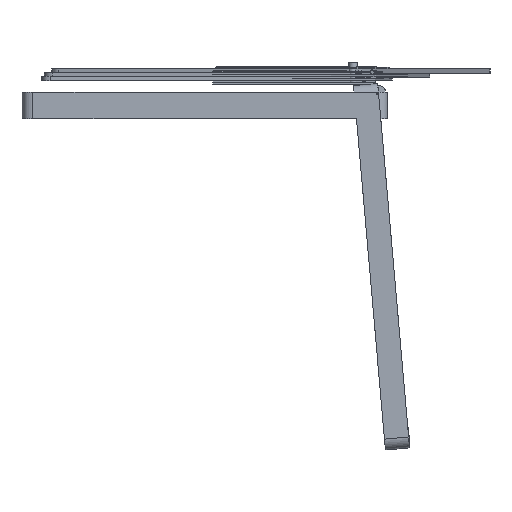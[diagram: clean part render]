
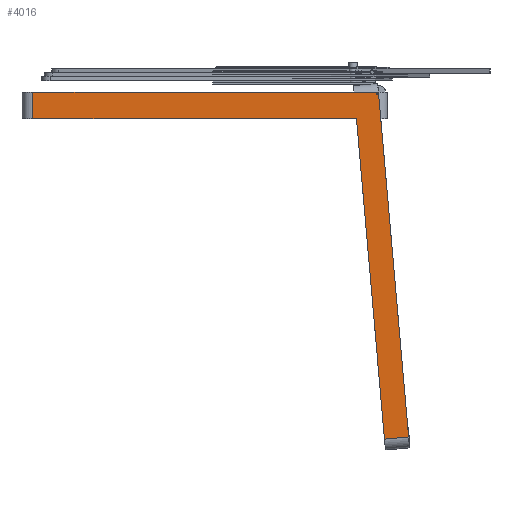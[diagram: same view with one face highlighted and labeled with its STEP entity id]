
A CAD part, left-side view. The second image highlights one B-rep face of the part: STEP entity #4016.
In plain terms, the highlighted planar face has unit normal (-1, 0, 0).
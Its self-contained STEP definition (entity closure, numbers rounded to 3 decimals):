
#778 = PLANE('',#779);
#779 = AXIS2_PLACEMENT_3D('',#780,#781,#782);
#780 = CARTESIAN_POINT('',(-46.,-30.19,2.2));
#781 = DIRECTION('',(0.,0.,1.));
#782 = DIRECTION('',(1.,0.,0.));
#2057 = EDGE_CURVE('',#2058,#2060,#2062,.T.);
#2058 = VERTEX_POINT('',#2059);
#2059 = CARTESIAN_POINT('',(-46.,-28.39,2.2));
#2060 = VERTEX_POINT('',#2061);
#2061 = CARTESIAN_POINT('',(-46.,28.39,2.2));
#2062 = SURFACE_CURVE('',#2063,(#2067,#2074),.PCURVE_S1.);
#2063 = LINE('',#2064,#2065);
#2064 = CARTESIAN_POINT('',(-46.,-30.19,2.2));
#2065 = VECTOR('',#2066,1.);
#2066 = DIRECTION('',(0.,1.,0.));
#2067 = PCURVE('',#778,#2068);
#2068 = DEFINITIONAL_REPRESENTATION('',(#2069),#2073);
#2069 = LINE('',#2070,#2071);
#2070 = CARTESIAN_POINT('',(0.,0.));
#2071 = VECTOR('',#2072,1.);
#2072 = DIRECTION('',(0.,1.));
#2073 = ( GEOMETRIC_REPRESENTATION_CONTEXT(2) 
PARAMETRIC_REPRESENTATION_CONTEXT() REPRESENTATION_CONTEXT('2D SPACE',''
  ) );
#2074 = PCURVE('',#2075,#2080);
#2075 = PLANE('',#2076);
#2076 = AXIS2_PLACEMENT_3D('',#2077,#2078,#2079);
#2077 = CARTESIAN_POINT('',(-46.,-30.19,-2.2));
#2078 = DIRECTION('',(1.,0.,0.));
#2079 = DIRECTION('',(0.,0.,1.));
#2080 = DEFINITIONAL_REPRESENTATION('',(#2081),#2085);
#2081 = LINE('',#2082,#2083);
#2082 = CARTESIAN_POINT('',(4.4,0.));
#2083 = VECTOR('',#2084,1.);
#2084 = DIRECTION('',(0.,-1.));
#2085 = ( GEOMETRIC_REPRESENTATION_CONTEXT(2) 
PARAMETRIC_REPRESENTATION_CONTEXT() REPRESENTATION_CONTEXT('2D SPACE',''
  ) );
#2104 = CYLINDRICAL_SURFACE('',#2105,1.8);
#2105 = AXIS2_PLACEMENT_3D('',#2106,#2107,#2108);
#2106 = CARTESIAN_POINT('',(-44.2,-28.39,-2.2));
#2107 = DIRECTION('',(0.,0.,1.));
#2108 = DIRECTION('',(-1.,-0.,0.));
#2281 = CYLINDRICAL_SURFACE('',#2282,1.8);
#2282 = AXIS2_PLACEMENT_3D('',#2283,#2284,#2285);
#2283 = CARTESIAN_POINT('',(-44.2,28.39,-2.2));
#2284 = DIRECTION('',(0.,0.,1.));
#2285 = DIRECTION('',(-1.,-0.,0.));
#4016 = ADVANCED_FACE('',(#4017),#2075,.F.);
#4017 = FACE_BOUND('',#4018,.F.);
#4018 = EDGE_LOOP('',(#4019,#4020,#4043,#4071,#4099,#4127,#4155,#4183));
#4019 = ORIENTED_EDGE('',*,*,#2057,.F.);
#4020 = ORIENTED_EDGE('',*,*,#4021,.F.);
#4021 = EDGE_CURVE('',#4022,#2058,#4024,.T.);
#4022 = VERTEX_POINT('',#4023);
#4023 = CARTESIAN_POINT('',(-46.,-28.39,1.763));
#4024 = SURFACE_CURVE('',#4025,(#4029,#4036),.PCURVE_S1.);
#4025 = LINE('',#4026,#4027);
#4026 = CARTESIAN_POINT('',(-46.,-28.39,-2.2));
#4027 = VECTOR('',#4028,1.);
#4028 = DIRECTION('',(0.,0.,1.));
#4029 = PCURVE('',#2075,#4030);
#4030 = DEFINITIONAL_REPRESENTATION('',(#4031),#4035);
#4031 = LINE('',#4032,#4033);
#4032 = CARTESIAN_POINT('',(0.,-1.8));
#4033 = VECTOR('',#4034,1.);
#4034 = DIRECTION('',(1.,0.));
#4035 = ( GEOMETRIC_REPRESENTATION_CONTEXT(2) 
PARAMETRIC_REPRESENTATION_CONTEXT() REPRESENTATION_CONTEXT('2D SPACE',''
  ) );
#4036 = PCURVE('',#2104,#4037);
#4037 = DEFINITIONAL_REPRESENTATION('',(#4038),#4042);
#4038 = LINE('',#4039,#4040);
#4039 = CARTESIAN_POINT('',(0.,0.));
#4040 = VECTOR('',#4041,1.);
#4041 = DIRECTION('',(0.,1.));
#4042 = ( GEOMETRIC_REPRESENTATION_CONTEXT(2) 
PARAMETRIC_REPRESENTATION_CONTEXT() REPRESENTATION_CONTEXT('2D SPACE',''
  ) );
#4043 = ORIENTED_EDGE('',*,*,#4044,.F.);
#4044 = EDGE_CURVE('',#4045,#4022,#4047,.T.);
#4045 = VERTEX_POINT('',#4046);
#4046 = CARTESIAN_POINT('',(-46.,-28.705,1.791));
#4047 = SURFACE_CURVE('',#4048,(#4052,#4059),.PCURVE_S1.);
#4048 = LINE('',#4049,#4050);
#4049 = CARTESIAN_POINT('',(-46.,-28.705,1.791));
#4050 = VECTOR('',#4051,1.);
#4051 = DIRECTION('',(0.,0.996,-0.087));
#4052 = PCURVE('',#2075,#4053);
#4053 = DEFINITIONAL_REPRESENTATION('',(#4054),#4058);
#4054 = LINE('',#4055,#4056);
#4055 = CARTESIAN_POINT('',(3.991,-1.485));
#4056 = VECTOR('',#4057,1.);
#4057 = DIRECTION('',(-0.087,-0.996));
#4058 = ( GEOMETRIC_REPRESENTATION_CONTEXT(2) 
PARAMETRIC_REPRESENTATION_CONTEXT() REPRESENTATION_CONTEXT('2D SPACE',''
  ) );
#4059 = PCURVE('',#4060,#4065);
#4060 = CYLINDRICAL_SURFACE('',#4061,1.8);
#4061 = AXIS2_PLACEMENT_3D('',#4062,#4063,#4064);
#4062 = CARTESIAN_POINT('',(-44.2,-28.705,1.791));
#4063 = DIRECTION('',(0.,0.996,-0.087));
#4064 = DIRECTION('',(-1.,0.,0.));
#4065 = DEFINITIONAL_REPRESENTATION('',(#4066),#4070);
#4066 = LINE('',#4067,#4068);
#4067 = CARTESIAN_POINT('',(0.,0.));
#4068 = VECTOR('',#4069,1.);
#4069 = DIRECTION('',(0.,1.));
#4070 = ( GEOMETRIC_REPRESENTATION_CONTEXT(2) 
PARAMETRIC_REPRESENTATION_CONTEXT() REPRESENTATION_CONTEXT('2D SPACE',''
  ) );
#4071 = ORIENTED_EDGE('',*,*,#4072,.T.);
#4072 = EDGE_CURVE('',#4045,#4073,#4075,.T.);
#4073 = VERTEX_POINT('',#4074);
#4074 = CARTESIAN_POINT('',(-46.,-33.654,-54.773));
#4075 = SURFACE_CURVE('',#4076,(#4080,#4087),.PCURVE_S1.);
#4076 = LINE('',#4077,#4078);
#4077 = CARTESIAN_POINT('',(-46.,-28.548,3.584));
#4078 = VECTOR('',#4079,1.);
#4079 = DIRECTION('',(0.,-0.087,-0.996));
#4080 = PCURVE('',#2075,#4081);
#4081 = DEFINITIONAL_REPRESENTATION('',(#4082),#4086);
#4082 = LINE('',#4083,#4084);
#4083 = CARTESIAN_POINT('',(5.784,-1.642));
#4084 = VECTOR('',#4085,1.);
#4085 = DIRECTION('',(-0.996,0.087));
#4086 = ( GEOMETRIC_REPRESENTATION_CONTEXT(2) 
PARAMETRIC_REPRESENTATION_CONTEXT() REPRESENTATION_CONTEXT('2D SPACE',''
  ) );
#4087 = PCURVE('',#4088,#4093);
#4088 = PLANE('',#4089);
#4089 = AXIS2_PLACEMENT_3D('',#4090,#4091,#4092);
#4090 = CARTESIAN_POINT('',(-46.,-28.548,3.584));
#4091 = DIRECTION('',(0.,0.996,-0.087));
#4092 = DIRECTION('',(1.,0.,0.));
#4093 = DEFINITIONAL_REPRESENTATION('',(#4094),#4098);
#4094 = LINE('',#4095,#4096);
#4095 = CARTESIAN_POINT('',(0.,0.));
#4096 = VECTOR('',#4097,1.);
#4097 = DIRECTION('',(0.,1.));
#4098 = ( GEOMETRIC_REPRESENTATION_CONTEXT(2) 
PARAMETRIC_REPRESENTATION_CONTEXT() REPRESENTATION_CONTEXT('2D SPACE',''
  ) );
#4099 = ORIENTED_EDGE('',*,*,#4100,.T.);
#4100 = EDGE_CURVE('',#4073,#4101,#4103,.T.);
#4101 = VERTEX_POINT('',#4102);
#4102 = CARTESIAN_POINT('',(-46.,-29.669,-55.121));
#4103 = SURFACE_CURVE('',#4104,(#4108,#4115),.PCURVE_S1.);
#4104 = LINE('',#4105,#4106);
#4105 = CARTESIAN_POINT('',(-46.,-33.654,-54.773));
#4106 = VECTOR('',#4107,1.);
#4107 = DIRECTION('',(0.,0.996,-0.087));
#4108 = PCURVE('',#2075,#4109);
#4109 = DEFINITIONAL_REPRESENTATION('',(#4110),#4114);
#4110 = LINE('',#4111,#4112);
#4111 = CARTESIAN_POINT('',(-52.573,3.464));
#4112 = VECTOR('',#4113,1.);
#4113 = DIRECTION('',(-0.087,-0.996));
#4114 = ( GEOMETRIC_REPRESENTATION_CONTEXT(2) 
PARAMETRIC_REPRESENTATION_CONTEXT() REPRESENTATION_CONTEXT('2D SPACE',''
  ) );
#4115 = PCURVE('',#4116,#4121);
#4116 = CYLINDRICAL_SURFACE('',#4117,1.8);
#4117 = AXIS2_PLACEMENT_3D('',#4118,#4119,#4120);
#4118 = CARTESIAN_POINT('',(-44.2,-33.654,-54.773));
#4119 = DIRECTION('',(0.,0.996,-0.087));
#4120 = DIRECTION('',(-1.,0.,0.));
#4121 = DEFINITIONAL_REPRESENTATION('',(#4122),#4126);
#4122 = LINE('',#4123,#4124);
#4123 = CARTESIAN_POINT('',(-0.,0.));
#4124 = VECTOR('',#4125,1.);
#4125 = DIRECTION('',(-0.,1.));
#4126 = ( GEOMETRIC_REPRESENTATION_CONTEXT(2) 
PARAMETRIC_REPRESENTATION_CONTEXT() REPRESENTATION_CONTEXT('2D SPACE',''
  ) );
#4127 = ORIENTED_EDGE('',*,*,#4128,.F.);
#4128 = EDGE_CURVE('',#4129,#4101,#4131,.T.);
#4129 = VERTEX_POINT('',#4130);
#4130 = CARTESIAN_POINT('',(-46.,-25.039,-2.2));
#4131 = SURFACE_CURVE('',#4132,(#4136,#4143),.PCURVE_S1.);
#4132 = LINE('',#4133,#4134);
#4133 = CARTESIAN_POINT('',(-46.,-24.564,3.236));
#4134 = VECTOR('',#4135,1.);
#4135 = DIRECTION('',(0.,-0.087,-0.996));
#4136 = PCURVE('',#2075,#4137);
#4137 = DEFINITIONAL_REPRESENTATION('',(#4138),#4142);
#4138 = LINE('',#4139,#4140);
#4139 = CARTESIAN_POINT('',(5.436,-5.626));
#4140 = VECTOR('',#4141,1.);
#4141 = DIRECTION('',(-0.996,0.087));
#4142 = ( GEOMETRIC_REPRESENTATION_CONTEXT(2) 
PARAMETRIC_REPRESENTATION_CONTEXT() REPRESENTATION_CONTEXT('2D SPACE',''
  ) );
#4143 = PCURVE('',#4144,#4149);
#4144 = PLANE('',#4145);
#4145 = AXIS2_PLACEMENT_3D('',#4146,#4147,#4148);
#4146 = CARTESIAN_POINT('',(-46.,-24.564,3.236));
#4147 = DIRECTION('',(0.,0.996,-0.087));
#4148 = DIRECTION('',(1.,0.,0.));
#4149 = DEFINITIONAL_REPRESENTATION('',(#4150),#4154);
#4150 = LINE('',#4151,#4152);
#4151 = CARTESIAN_POINT('',(0.,0.));
#4152 = VECTOR('',#4153,1.);
#4153 = DIRECTION('',(0.,1.));
#4154 = ( GEOMETRIC_REPRESENTATION_CONTEXT(2) 
PARAMETRIC_REPRESENTATION_CONTEXT() REPRESENTATION_CONTEXT('2D SPACE',''
  ) );
#4155 = ORIENTED_EDGE('',*,*,#4156,.T.);
#4156 = EDGE_CURVE('',#4129,#4157,#4159,.T.);
#4157 = VERTEX_POINT('',#4158);
#4158 = CARTESIAN_POINT('',(-46.,28.39,-2.2));
#4159 = SURFACE_CURVE('',#4160,(#4164,#4171),.PCURVE_S1.);
#4160 = LINE('',#4161,#4162);
#4161 = CARTESIAN_POINT('',(-46.,-30.19,-2.2));
#4162 = VECTOR('',#4163,1.);
#4163 = DIRECTION('',(0.,1.,0.));
#4164 = PCURVE('',#2075,#4165);
#4165 = DEFINITIONAL_REPRESENTATION('',(#4166),#4170);
#4166 = LINE('',#4167,#4168);
#4167 = CARTESIAN_POINT('',(0.,0.));
#4168 = VECTOR('',#4169,1.);
#4169 = DIRECTION('',(0.,-1.));
#4170 = ( GEOMETRIC_REPRESENTATION_CONTEXT(2) 
PARAMETRIC_REPRESENTATION_CONTEXT() REPRESENTATION_CONTEXT('2D SPACE',''
  ) );
#4171 = PCURVE('',#4172,#4177);
#4172 = PLANE('',#4173);
#4173 = AXIS2_PLACEMENT_3D('',#4174,#4175,#4176);
#4174 = CARTESIAN_POINT('',(-46.,-30.19,-2.2));
#4175 = DIRECTION('',(0.,0.,1.));
#4176 = DIRECTION('',(1.,0.,0.));
#4177 = DEFINITIONAL_REPRESENTATION('',(#4178),#4182);
#4178 = LINE('',#4179,#4180);
#4179 = CARTESIAN_POINT('',(0.,0.));
#4180 = VECTOR('',#4181,1.);
#4181 = DIRECTION('',(0.,1.));
#4182 = ( GEOMETRIC_REPRESENTATION_CONTEXT(2) 
PARAMETRIC_REPRESENTATION_CONTEXT() REPRESENTATION_CONTEXT('2D SPACE',''
  ) );
#4183 = ORIENTED_EDGE('',*,*,#4184,.T.);
#4184 = EDGE_CURVE('',#4157,#2060,#4185,.T.);
#4185 = SURFACE_CURVE('',#4186,(#4190,#4197),.PCURVE_S1.);
#4186 = LINE('',#4187,#4188);
#4187 = CARTESIAN_POINT('',(-46.,28.39,-2.2));
#4188 = VECTOR('',#4189,1.);
#4189 = DIRECTION('',(0.,0.,1.));
#4190 = PCURVE('',#2075,#4191);
#4191 = DEFINITIONAL_REPRESENTATION('',(#4192),#4196);
#4192 = LINE('',#4193,#4194);
#4193 = CARTESIAN_POINT('',(0.,-58.58));
#4194 = VECTOR('',#4195,1.);
#4195 = DIRECTION('',(1.,0.));
#4196 = ( GEOMETRIC_REPRESENTATION_CONTEXT(2) 
PARAMETRIC_REPRESENTATION_CONTEXT() REPRESENTATION_CONTEXT('2D SPACE',''
  ) );
#4197 = PCURVE('',#2281,#4198);
#4198 = DEFINITIONAL_REPRESENTATION('',(#4199),#4203);
#4199 = LINE('',#4200,#4201);
#4200 = CARTESIAN_POINT('',(-0.,0.));
#4201 = VECTOR('',#4202,1.);
#4202 = DIRECTION('',(-0.,1.));
#4203 = ( GEOMETRIC_REPRESENTATION_CONTEXT(2) 
PARAMETRIC_REPRESENTATION_CONTEXT() REPRESENTATION_CONTEXT('2D SPACE',''
  ) );
